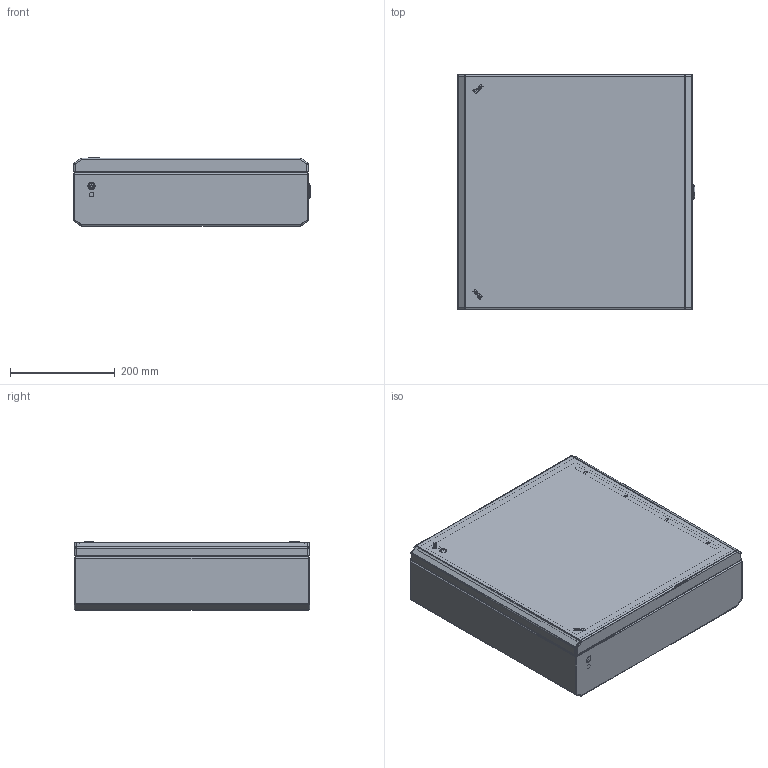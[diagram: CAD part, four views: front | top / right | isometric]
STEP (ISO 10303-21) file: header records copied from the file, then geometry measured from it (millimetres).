
FILE_DESCRIPTION (( 'STEP AP203' ), '1' );
FILE_NAME ('BK44A-COM.step', '2023-09-19T13:19:49', ( '' ), ( '' ), 'SwSTEP 2.0', 'SolidWorks 2021', '' );
FILE_SCHEMA (( 'CONFIG_CONTROL_DESIGN' ));
Length unit declared in the file: millimetre
Products named in the file (19): LOGO_ILINOX; Parte7^ SG215S_Assiemi Box serie BK33-BK75M; 1000-u183^ SG215S_Assiemi Box serie BK33-BK75M; BK44A-COM; PRM615TL316;  SG215S^Assiemi Box serie BK33-BK75M_Chiusura_BASSO; Fasciame FABK33- FABK75M_FABK44; 1000-02-RA_1^ 1000-U134_ SG215S_Assiemi Box serie BK33-BK75M;  1000-U134^ SG215S_Assiemi Box serie BK33-BK75M; 1000-24^1000-u183_ SG215S_Assiemi Box serie BK33-BK75M; Porte Box BK33-BK75M_POBK44; OLD-ADMT_ADMT; 1000-101-GPF_GPD_1^ 1000-U134_ SG215S_Assiemi Box serie BK33-BK75M; Guarnizione Schiumata 13x6.5_GBK44-GBK44M; Staffa Serraggio Box BK_SSBKH450; 1000-156-01^1000-u183_ SG215S_Assiemi Box serie BK33-BK75M; 1000-277-01PI^1000-u183_ SG215S_Assiemi Box serie BK33-BK75M; Scarpetta Box serie BK; 1000-03-PG^1000-u183_ SG215S_Assiemi Box serie BK33-BK75M
Assembly tree (23 placements, depth 4):
  BK44A-COM
    Fasciame FABK33- FABK75M_FABK44
    Porte Box BK33-BK75M_POBK44
    Guarnizione Schiumata 13x6.5_GBK44-GBK44M
    Staffa Serraggio Box BK_SSBKH450
    Scarpetta Box serie BK
     SG215S^Assiemi Box serie BK33-BK75M_Chiusura_BASSO
       1000-U134^ SG215S_Assiemi Box serie BK33-BK75M
        1000-101-GPF_GPD_1^ 1000-U134_ SG215S_Assiemi Box serie BK33-BK75M
        1000-02-RA_1^ 1000-U134_ SG215S_Assiemi Box serie BK33-BK75M
      1000-u183^ SG215S_Assiemi Box serie BK33-BK75M
        1000-156-01^1000-u183_ SG215S_Assiemi Box serie BK33-BK75M
        1000-03-PG^1000-u183_ SG215S_Assiemi Box serie BK33-BK75M
        1000-24^1000-u183_ SG215S_Assiemi Box serie BK33-BK75M
        1000-277-01PI^1000-u183_ SG215S_Assiemi Box serie BK33-BK75M
      Parte7^ SG215S_Assiemi Box serie BK33-BK75M
    OLD-ADMT_ADMT  x2
    LOGO_ILINOX  x2
    PRM615TL316  x4
Bounding box: 454 x 450 x 130.1 mm (x, y, z)
Volume: 1159422.1 mm3; surface area: 1459104.2 mm2
Topology: 41 solids, 42 shells, 1025 faces, 2411 edges, 1474 vertices
Faces by surface type: plane 534, cylinder 362, sphere 42, cone 40, bspline 31, torus 16
Entity records: 30274 total; most frequent: CARTESIAN_POINT 7339, DIRECTION 4537, ORIENTED_EDGE 4171, EDGE_CURVE 2089, AXIS2_PLACEMENT_3D 1690, VERTEX_POINT 1292, VECTOR 1157, LINE 1157
